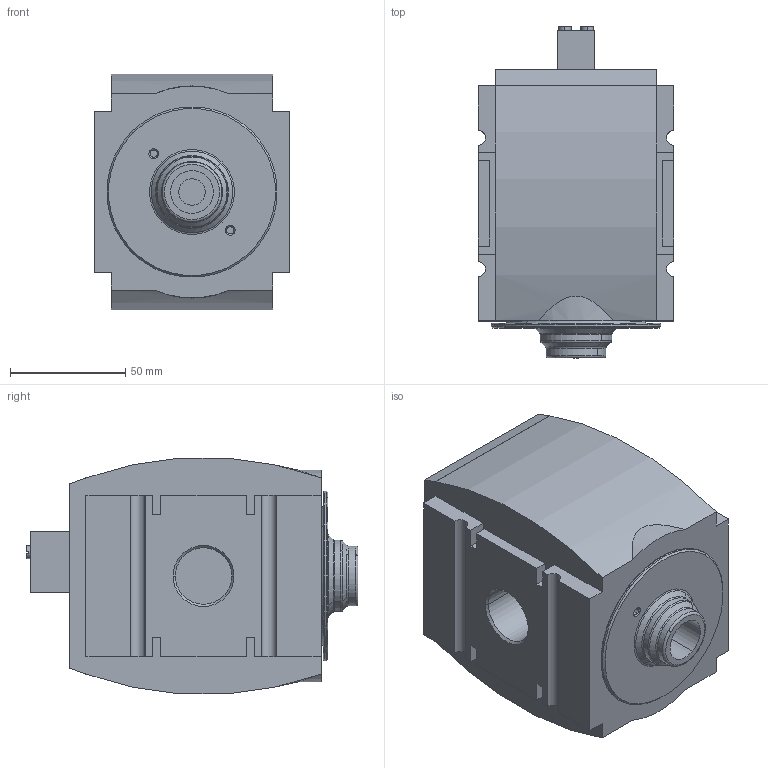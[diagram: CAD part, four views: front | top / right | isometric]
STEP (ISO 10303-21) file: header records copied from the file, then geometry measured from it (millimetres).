
FILE_DESCRIPTION((''),'2;1');
FILE_NAME('R412009262_ASM','2015-05-12T',('pma1hc'),(''),'PRO/ENGINEER BY PARAMETRIC TECHNOLOGY CORPORATION, 2011490','PRO/ENGINEER BY PARAMETRIC TECHNOLOGY CORPORATION, 2011490','');
FILE_SCHEMA(('AUTOMOTIVE_DESIGN_CC2 { 1 2 10303 214 -1 1 5 2 }'));
Length unit declared in the file: millimetre
Products named in the file (2): R412009262; R412009262_ASM
Assembly tree (1 placements, depth 2):
  R412009262_ASM
    R412009262
Bounding box: 85 x 144 x 102.28 mm (x, y, z)
Volume: 837538.6 mm3; surface area: 67484.5 mm2
Topology: 1 solids, 1 shells, 139 faces, 368 edges, 244 vertices
Faces by surface type: plane 77, cylinder 32, cone 16, torus 14
Entity records: 6785 total; most frequent: CARTESIAN_POINT 854, DIRECTION 786, ORIENTED_EDGE 736, PRESENTATION_STYLE_ASSIGNMENT 468, STYLED_ITEM 369, CURVE_STYLE 368, EDGE_CURVE 368, AXIS2_PLACEMENT_3D 280
